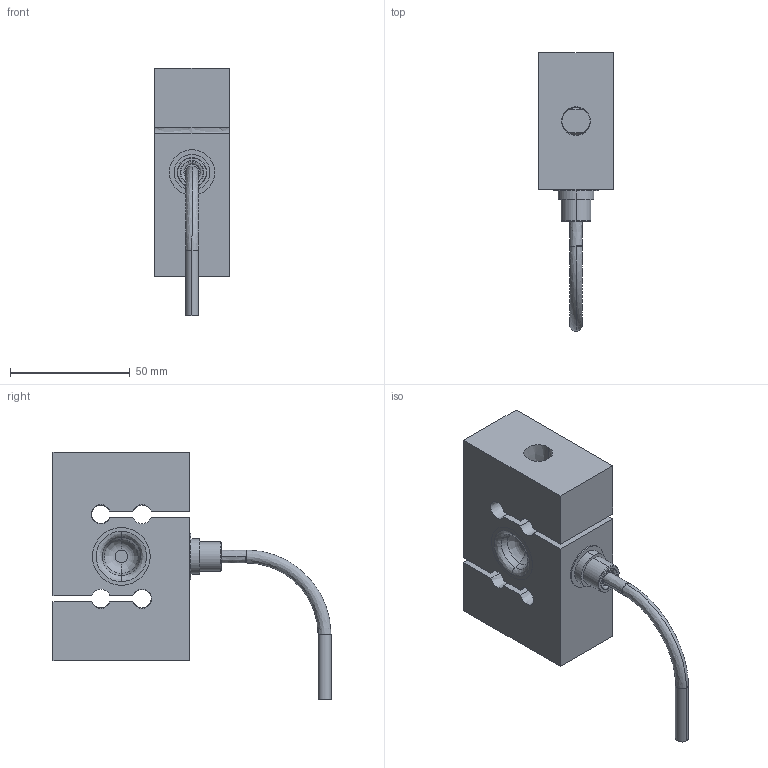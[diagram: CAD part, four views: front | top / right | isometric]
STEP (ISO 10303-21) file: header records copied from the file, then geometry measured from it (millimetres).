
FILE_DESCRIPTION((''),'2;1');
FILE_NAME('S9M_10KN','2018-03-15T',('esche'),(''),'CREO PARAMETRIC BY PTC INC, 2017170','CREO PARAMETRIC BY PTC INC, 2017170','');
FILE_SCHEMA(('CONFIG_CONTROL_DESIGN'));
Length unit declared in the file: millimetre
Products named in the file (1): S9M_10KN
Bounding box: 31.16 x 116.3 x 103.65 mm (x, y, z)
Volume: 140413.7 mm3; surface area: 27823.8 mm2
Topology: 1 solids, 1 shells, 74 faces, 186 edges, 122 vertices
Faces by surface type: bspline 74
Entity records: 3402 total; most frequent: CARTESIAN_POINT 1682, ORIENTED_EDGE 372, DIRECTION 282, EDGE_CURVE 186, VERTEX_POINT 122, AXIS2_PLACEMENT_3D 100, CIRCLE 100, EDGE_LOOP 86
